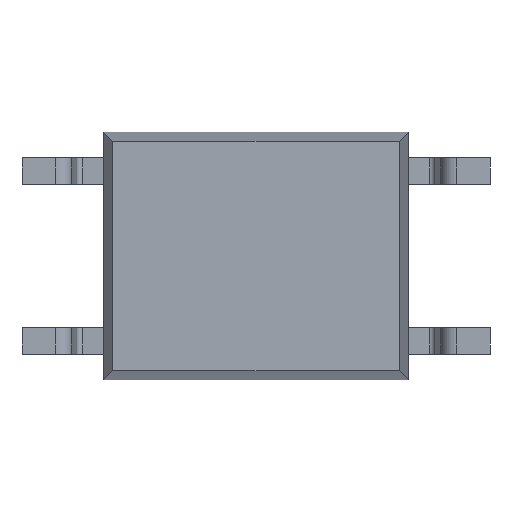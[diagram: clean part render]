
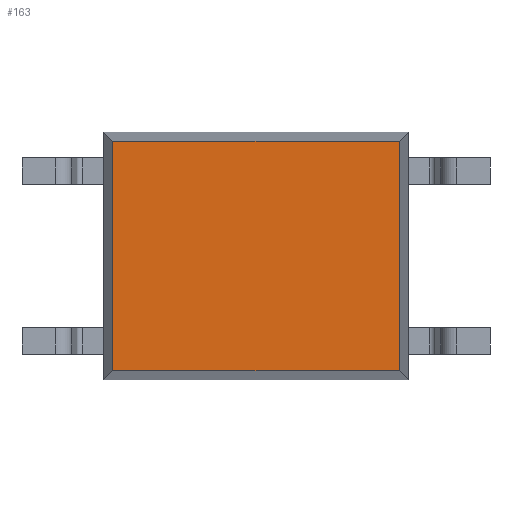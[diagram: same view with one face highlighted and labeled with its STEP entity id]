
A CAD part, front view. The second image highlights one B-rep face of the part: STEP entity #163.
In plain terms, the highlighted planar face has unit normal (0, -1, 0).
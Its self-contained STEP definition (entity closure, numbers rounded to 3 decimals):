
#12 = EDGE_CURVE ( 'NONE', #1473, #1250, #710, .T. ) ;
#62 = EDGE_CURVE ( 'NONE', #1556, #1473, #731, .T. ) ;
#136 = LINE ( 'NONE', #1989, #1224 ) ;
#144 = VECTOR ( 'NONE', #1396, 1000. ) ;
#163 = ADVANCED_FACE ( 'NONE', ( #2112 ), #1755, .T. ) ;
#256 = EDGE_CURVE ( 'NONE', #2228, #1556, #136, .T. ) ;
#381 = DIRECTION ( 'NONE',  ( 0., 0., -1. ) ) ;
#431 = CARTESIAN_POINT ( 'NONE',  ( 0., 0.1, 0. ) ) ;
#440 = EDGE_CURVE ( 'NONE', #1250, #2228, #1425, .T. ) ;
#508 = CARTESIAN_POINT ( 'NONE',  ( -2.14, 0.1, -1.715 ) ) ;
#535 = VECTOR ( 'NONE', #381, 1000. ) ;
#709 = ORIENTED_EDGE ( 'NONE', *, *, #440, .T. ) ;
#710 = LINE ( 'NONE', #2049, #144 ) ;
#721 = DIRECTION ( 'NONE',  ( 0., -1., 0. ) ) ;
#731 = LINE ( 'NONE', #1262, #928 ) ;
#928 = VECTOR ( 'NONE', #1449, 1000. ) ;
#1042 = EDGE_LOOP ( 'NONE', ( #1740, #1923, #1777, #709 ) ) ;
#1224 = VECTOR ( 'NONE', #1852, 1000. ) ;
#1250 = VERTEX_POINT ( 'NONE', #1430 ) ;
#1262 = CARTESIAN_POINT ( 'NONE',  ( 2.14, 0.1, -1.85 ) ) ;
#1292 = AXIS2_PLACEMENT_3D ( 'NONE', #431, #721, #1408 ) ;
#1396 = DIRECTION ( 'NONE',  ( -1., 0., 0. ) ) ;
#1408 = DIRECTION ( 'NONE',  ( 0., 0., -1. ) ) ;
#1425 = LINE ( 'NONE', #2101, #535 ) ;
#1430 = CARTESIAN_POINT ( 'NONE',  ( -2.14, 0.1, 1.715 ) ) ;
#1449 = DIRECTION ( 'NONE',  ( 0., 0., 1. ) ) ;
#1473 = VERTEX_POINT ( 'NONE', #1575 ) ;
#1556 = VERTEX_POINT ( 'NONE', #1707 ) ;
#1575 = CARTESIAN_POINT ( 'NONE',  ( 2.14, 0.1, 1.715 ) ) ;
#1707 = CARTESIAN_POINT ( 'NONE',  ( 2.14, 0.1, -1.715 ) ) ;
#1740 = ORIENTED_EDGE ( 'NONE', *, *, #256, .T. ) ;
#1755 = PLANE ( 'NONE',  #1292 ) ;
#1777 = ORIENTED_EDGE ( 'NONE', *, *, #12, .T. ) ;
#1852 = DIRECTION ( 'NONE',  ( 1., 0., 0. ) ) ;
#1923 = ORIENTED_EDGE ( 'NONE', *, *, #62, .T. ) ;
#1989 = CARTESIAN_POINT ( 'NONE',  ( -2.275, 0.1, -1.715 ) ) ;
#2049 = CARTESIAN_POINT ( 'NONE',  ( 2.275, 0.1, 1.715 ) ) ;
#2101 = CARTESIAN_POINT ( 'NONE',  ( -2.14, 0.1, 1.85 ) ) ;
#2112 = FACE_OUTER_BOUND ( 'NONE', #1042, .T. ) ;
#2228 = VERTEX_POINT ( 'NONE', #508 ) ;
